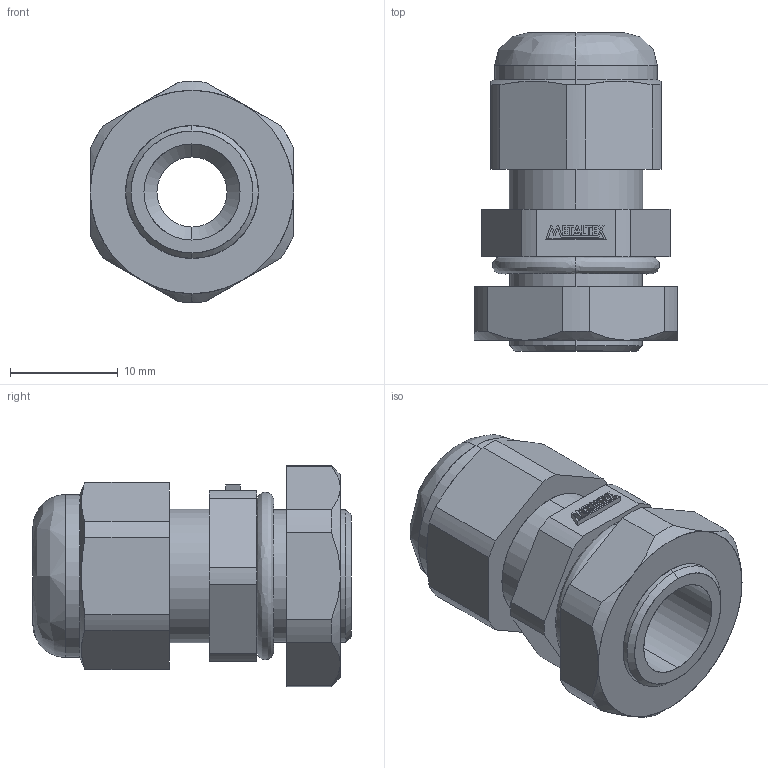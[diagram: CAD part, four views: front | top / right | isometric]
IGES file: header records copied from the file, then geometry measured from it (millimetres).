
Start section: SolidWorks IGES file using analytic representation for surfaces
Global section: file name: D:\X - Arquivos\PROEX\Empresas\P11 - METALTEX\01 - Produtos\IGES\Terceira remessa\Etapa 2\CH-PG7.IGS; native system: SolidWorks 2012; preprocessor: SolidWorks 2012; author: Usuario; date: 180207.124139; units: millimetre
Bounding box: 18.85 x 29.5 x 20.5 mm (x, y, z)
Surface area: 3156.3 mm2 (no closed solid volume)
Topology: 0 solids, 0 shells, 174 faces, 1270 edges, 1270 vertices
Faces by surface type: bspline 125, revolution 49
